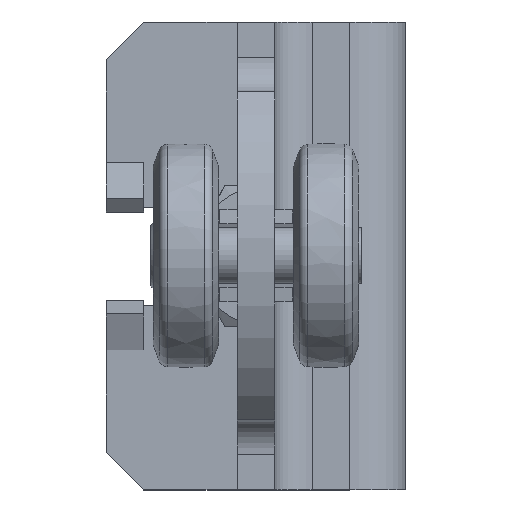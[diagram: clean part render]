
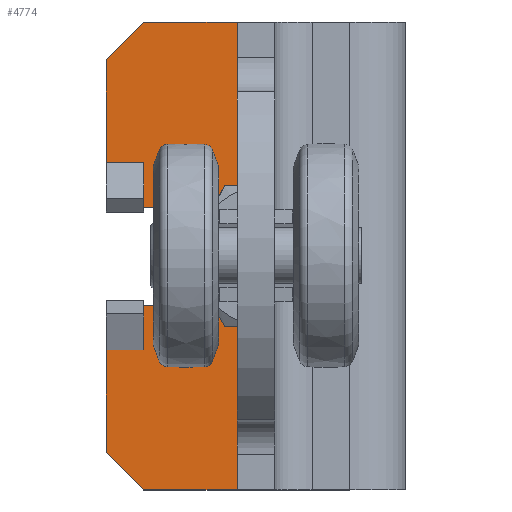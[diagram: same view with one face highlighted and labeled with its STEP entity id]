
A CAD part, top view. The second image highlights one B-rep face of the part: STEP entity #4774.
In plain terms, the highlighted planar face has unit normal (0, 0, 1).
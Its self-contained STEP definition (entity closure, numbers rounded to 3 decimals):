
#305=FACE_OUTER_BOUND('',#594,.T.);
#594=EDGE_LOOP('',(#3208,#3209,#3210,#3211,#3212,#3213,#3214,#3215,#3216,
#3217,#3218,#3219,#3220,#3221,#3222,#3223,#3224,#3225));
#925=LINE('',#7181,#1337);
#927=LINE('',#7185,#1339);
#928=LINE('',#7187,#1340);
#929=LINE('',#7189,#1341);
#930=LINE('',#7191,#1342);
#931=LINE('',#7193,#1343);
#932=LINE('',#7195,#1344);
#933=LINE('',#7197,#1345);
#934=LINE('',#7199,#1346);
#935=LINE('',#7201,#1347);
#936=LINE('',#7203,#1348);
#937=LINE('',#7205,#1349);
#938=LINE('',#7207,#1350);
#939=LINE('',#7211,#1351);
#940=LINE('',#7213,#1352);
#941=LINE('',#7215,#1353);
#942=LINE('',#7216,#1354);
#1337=VECTOR('',#5650,8.);
#1339=VECTOR('',#5654,22.01);
#1340=VECTOR('',#5655,11.314);
#1341=VECTOR('',#5656,44.);
#1342=VECTOR('',#5657,100.);
#1343=VECTOR('',#5658,44.);
#1344=VECTOR('',#5659,11.314);
#1345=VECTOR('',#5660,22.01);
#1346=VECTOR('',#5661,8.);
#1347=VECTOR('',#5662,0.01);
#1348=VECTOR('',#5663,0.01);
#1349=VECTOR('',#5664,9.5);
#1350=VECTOR('',#5665,25.99);
#1351=VECTOR('',#5668,25.99);
#1352=VECTOR('',#5669,9.5);
#1353=VECTOR('',#5670,0.01);
#1354=VECTOR('',#5671,0.01);
#1747=CIRCLE('',#5076,10.5);
#2008=VERTEX_POINT('',#7165);
#2011=VERTEX_POINT('',#7172);
#2013=VERTEX_POINT('',#7184);
#2014=VERTEX_POINT('',#7186);
#2015=VERTEX_POINT('',#7188);
#2016=VERTEX_POINT('',#7190);
#2017=VERTEX_POINT('',#7192);
#2018=VERTEX_POINT('',#7194);
#2019=VERTEX_POINT('',#7196);
#2020=VERTEX_POINT('',#7198);
#2021=VERTEX_POINT('',#7200);
#2022=VERTEX_POINT('',#7202);
#2023=VERTEX_POINT('',#7204);
#2024=VERTEX_POINT('',#7206);
#2025=VERTEX_POINT('',#7208);
#2026=VERTEX_POINT('',#7210);
#2027=VERTEX_POINT('',#7212);
#2028=VERTEX_POINT('',#7214);
#2487=EDGE_CURVE('',#2008,#2011,#925,.T.);
#2489=EDGE_CURVE('',#2013,#2011,#927,.T.);
#2490=EDGE_CURVE('',#2014,#2013,#928,.T.);
#2491=EDGE_CURVE('',#2015,#2014,#929,.T.);
#2492=EDGE_CURVE('',#2015,#2016,#930,.T.);
#2493=EDGE_CURVE('',#2017,#2016,#931,.T.);
#2494=EDGE_CURVE('',#2018,#2017,#932,.T.);
#2495=EDGE_CURVE('',#2019,#2018,#933,.T.);
#2496=EDGE_CURVE('',#2019,#2020,#934,.T.);
#2497=EDGE_CURVE('',#2020,#2021,#935,.T.);
#2498=EDGE_CURVE('',#2021,#2022,#936,.T.);
#2499=EDGE_CURVE('',#2022,#2023,#937,.T.);
#2500=EDGE_CURVE('',#2024,#2023,#938,.T.);
#2501=EDGE_CURVE('',#2025,#2024,#1747,.T.);
#2502=EDGE_CURVE('',#2026,#2025,#939,.T.);
#2503=EDGE_CURVE('',#2026,#2027,#940,.T.);
#2504=EDGE_CURVE('',#2027,#2028,#941,.T.);
#2505=EDGE_CURVE('',#2028,#2008,#942,.T.);
#3208=ORIENTED_EDGE('',*,*,#2487,.T.);
#3209=ORIENTED_EDGE('',*,*,#2489,.F.);
#3210=ORIENTED_EDGE('',*,*,#2490,.F.);
#3211=ORIENTED_EDGE('',*,*,#2491,.F.);
#3212=ORIENTED_EDGE('',*,*,#2492,.T.);
#3213=ORIENTED_EDGE('',*,*,#2493,.F.);
#3214=ORIENTED_EDGE('',*,*,#2494,.F.);
#3215=ORIENTED_EDGE('',*,*,#2495,.F.);
#3216=ORIENTED_EDGE('',*,*,#2496,.T.);
#3217=ORIENTED_EDGE('',*,*,#2497,.T.);
#3218=ORIENTED_EDGE('',*,*,#2498,.T.);
#3219=ORIENTED_EDGE('',*,*,#2499,.T.);
#3220=ORIENTED_EDGE('',*,*,#2500,.F.);
#3221=ORIENTED_EDGE('',*,*,#2501,.F.);
#3222=ORIENTED_EDGE('',*,*,#2502,.F.);
#3223=ORIENTED_EDGE('',*,*,#2503,.T.);
#3224=ORIENTED_EDGE('',*,*,#2504,.T.);
#3225=ORIENTED_EDGE('',*,*,#2505,.T.);
#4624=PLANE('',#5075);
#4774=ADVANCED_FACE('',(#305),#4624,.T.);
#5075=AXIS2_PLACEMENT_3D('',#7183,#5652,#5653);
#5076=AXIS2_PLACEMENT_3D('',#7209,#5666,#5667);
#5650=DIRECTION('',(-1.,0.,0.));
#5652=DIRECTION('center_axis',(0.,0.,1.));
#5653=DIRECTION('ref_axis',(1.,0.,0.));
#5654=DIRECTION('',(0.,1.,0.));
#5655=DIRECTION('',(-0.707,0.707,0.));
#5656=DIRECTION('',(-1.,0.,0.));
#5657=DIRECTION('',(0.,1.,0.));
#5658=DIRECTION('',(1.,0.,0.));
#5659=DIRECTION('',(0.707,0.707,0.));
#5660=DIRECTION('',(0.,1.,0.));
#5661=DIRECTION('',(1.,0.,0.));
#5662=DIRECTION('',(0.,1.,0.));
#5663=DIRECTION('',(1.,0.,0.));
#5664=DIRECTION('',(0.,-1.,0.));
#5665=DIRECTION('',(-1.,0.,0.));
#5666=DIRECTION('center_axis',(0.,0.,1.));
#5667=DIRECTION('ref_axis',(0.,-1.,0.));
#5668=DIRECTION('',(1.,0.,0.));
#5669=DIRECTION('',(0.,-1.,0.));
#5670=DIRECTION('',(-1.,0.,0.));
#5671=DIRECTION('',(0.,1.,0.));
#7165=CARTESIAN_POINT('',(-26.,-19.99,0.));
#7172=CARTESIAN_POINT('',(-34.,-19.99,0.));
#7181=CARTESIAN_POINT('',(1.148,-19.99,0.));
#7183=CARTESIAN_POINT('Origin',(36.295,0.,0.));
#7184=CARTESIAN_POINT('',(-34.,-42.,0.));
#7185=CARTESIAN_POINT('',(-34.,-42.,0.));
#7186=CARTESIAN_POINT('',(-26.,-50.,0.));
#7187=CARTESIAN_POINT('',(-26.,-50.,0.));
#7188=CARTESIAN_POINT('',(18.,-50.,0.));
#7189=CARTESIAN_POINT('',(81.,-50.,0.));
#7190=CARTESIAN_POINT('',(18.,50.,0.));
#7191=CARTESIAN_POINT('',(18.,25.,0.));
#7192=CARTESIAN_POINT('',(-26.,50.,0.));
#7193=CARTESIAN_POINT('',(-26.,50.,0.));
#7194=CARTESIAN_POINT('',(-34.,42.,0.));
#7195=CARTESIAN_POINT('',(-34.,42.,0.));
#7196=CARTESIAN_POINT('',(-34.,19.99,0.));
#7197=CARTESIAN_POINT('',(-34.,10.5,0.));
#7198=CARTESIAN_POINT('',(-26.,19.99,0.));
#7199=CARTESIAN_POINT('',(5.148,19.99,0.));
#7200=CARTESIAN_POINT('',(-26.,20.,0.));
#7201=CARTESIAN_POINT('',(-26.,10.,0.));
#7202=CARTESIAN_POINT('',(-25.99,20.,0.));
#7203=CARTESIAN_POINT('',(5.153,20.,0.));
#7204=CARTESIAN_POINT('',(-25.99,10.5,0.));
#7205=CARTESIAN_POINT('',(-25.99,5.25,0.));
#7206=CARTESIAN_POINT('',(0.,10.5,0.));
#7207=CARTESIAN_POINT('',(0.,10.5,0.));
#7208=CARTESIAN_POINT('',(0.,-10.5,0.));
#7209=CARTESIAN_POINT('Origin',(0.,0.,0.));
#7210=CARTESIAN_POINT('',(-25.99,-10.5,0.));
#7211=CARTESIAN_POINT('',(-34.,-10.5,0.));
#7212=CARTESIAN_POINT('',(-25.99,-20.,0.));
#7213=CARTESIAN_POINT('',(-25.99,-10.,0.));
#7214=CARTESIAN_POINT('',(-26.,-20.,0.));
#7215=CARTESIAN_POINT('',(5.148,-20.,0.));
#7216=CARTESIAN_POINT('',(-26.,-5.25,0.));
